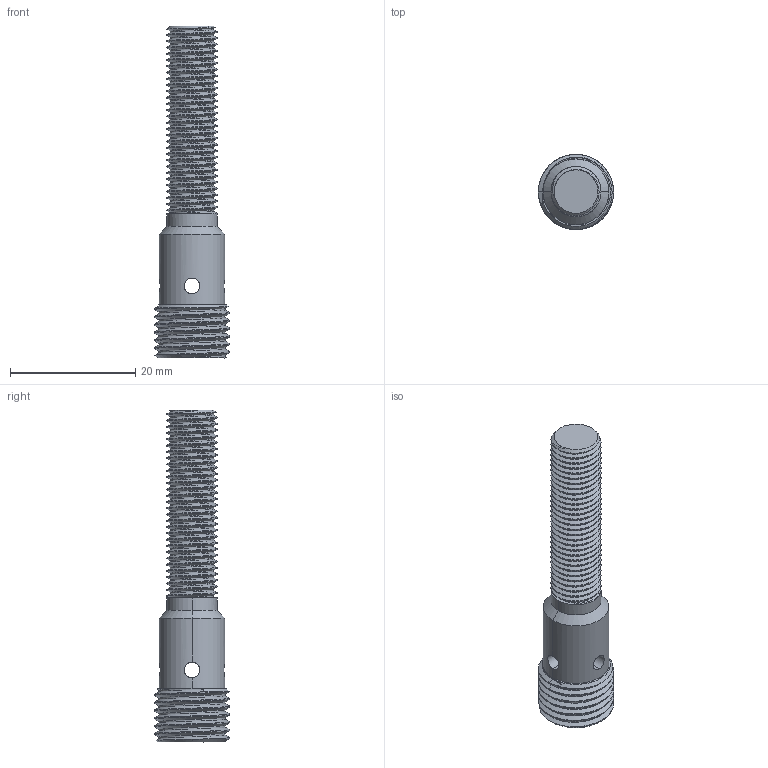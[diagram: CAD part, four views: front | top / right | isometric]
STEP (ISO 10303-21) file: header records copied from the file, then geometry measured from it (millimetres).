
FILE_DESCRIPTION (( 'STEP AP214' ), '1' );
FILE_NAME ('1.BIW3N20.STEP', '2024-11-13T08:36:33', ( '' ), ( '' ), 'SwSTEP 2.0', 'SolidWorks 2022', '' );
FILE_SCHEMA (( 'AUTOMOTIVE_DESIGN' ));
Length unit declared in the file: millimetre
Products named in the file (1): 1.BIW3N20
Bounding box: 12 x 12 x 53 mm (x, y, z)
Volume: 2730.3 mm3; surface area: 2722.1 mm2
Topology: 1 solids, 1 shells, 130 faces, 364 edges, 230 vertices
Faces by surface type: cylinder 96, plane 11, cone 9, sphere 8, bspline 6
Entity records: 11385 total; most frequent: CARTESIAN_POINT 8390, ORIENTED_EDGE 696, DIRECTION 462, EDGE_CURVE 348, VERTEX_POINT 222, AXIS2_PLACEMENT_3D 175, EDGE_LOOP 138, ADVANCED_FACE 130
